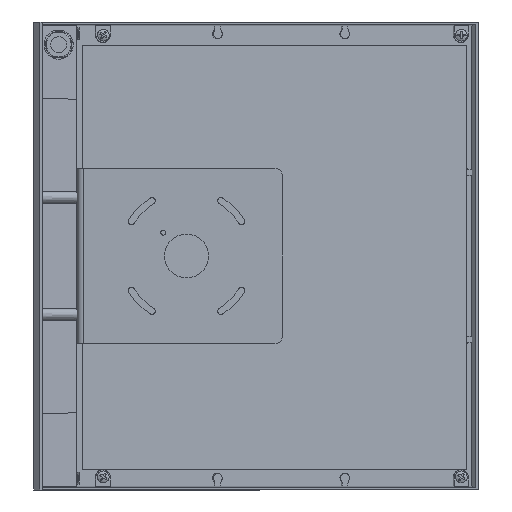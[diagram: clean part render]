
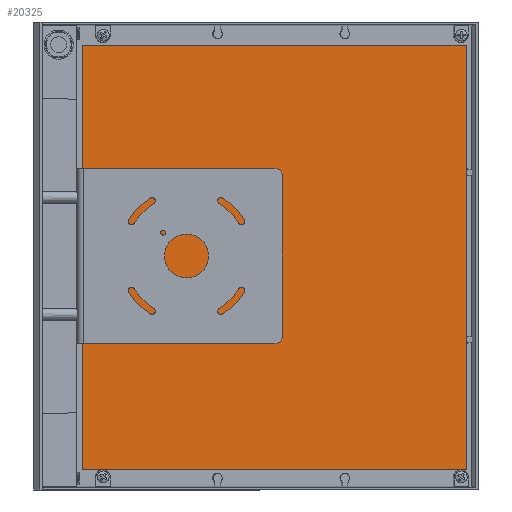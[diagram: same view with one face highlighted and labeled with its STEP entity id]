
A CAD part, left-side view. The second image highlights one B-rep face of the part: STEP entity #20325.
In plain terms, the highlighted planar face has unit normal (-0.999, -0.038, 0) as drawn and (0, -1, 0) by its records, which use the part's own axes.
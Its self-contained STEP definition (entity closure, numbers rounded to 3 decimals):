
#3558 = VERTEX_POINT ( 'NONE', #20234 ) ;
#7735 = LINE ( 'NONE', #22113, #37210 ) ;
#8285 = DIRECTION ( 'NONE',  ( 0., 1., 0. ) ) ;
#9174 = EDGE_LOOP ( 'NONE', ( #26311, #14232, #24971, #21542 ) ) ;
#10158 = DIRECTION ( 'NONE',  ( 0., 0., -1. ) ) ;
#10750 = CARTESIAN_POINT ( 'NONE',  ( -145., 0., -131.5 ) ) ;
#11311 = AXIS2_PLACEMENT_3D ( 'NONE', #16796, #8285, #19075 ) ;
#12753 = CARTESIAN_POINT ( 'NONE',  ( 145., 0., -131.5 ) ) ;
#13073 = VECTOR ( 'NONE', #29663, 1000. ) ;
#13156 = EDGE_CURVE ( 'NONE', #26942, #31463, #30765, .T. ) ;
#14232 = ORIENTED_EDGE ( 'NONE', *, *, #13156, .F. ) ;
#16796 = CARTESIAN_POINT ( 'NONE',  ( 0., 0., 0. ) ) ;
#19075 = DIRECTION ( 'NONE',  ( 0., 0., 1. ) ) ;
#20234 = CARTESIAN_POINT ( 'NONE',  ( -145., 0., 131.5 ) ) ;
#20325 = ADVANCED_FACE ( 'NONE', ( #25490 ), #31129, .F. ) ;
#21505 = EDGE_CURVE ( 'NONE', #31463, #3558, #7735, .T. ) ;
#21542 = ORIENTED_EDGE ( 'NONE', *, *, #33451, .F. ) ;
#21758 = EDGE_CURVE ( 'NONE', #36669, #26942, #24514, .T. ) ;
#22113 = CARTESIAN_POINT ( 'NONE',  ( -145., 0., -131.5 ) ) ;
#24514 = LINE ( 'NONE', #36013, #36803 ) ;
#24930 = DIRECTION ( 'NONE',  ( 0., 0., 1. ) ) ;
#24971 = ORIENTED_EDGE ( 'NONE', *, *, #21758, .F. ) ;
#25490 = FACE_OUTER_BOUND ( 'NONE', #9174, .T. ) ;
#26311 = ORIENTED_EDGE ( 'NONE', *, *, #21505, .F. ) ;
#26843 = LINE ( 'NONE', #34933, #13073 ) ;
#26942 = VERTEX_POINT ( 'NONE', #12753 ) ;
#27573 = CARTESIAN_POINT ( 'NONE',  ( 145., 0., 131.5 ) ) ;
#28502 = DIRECTION ( 'NONE',  ( -1., 0., 0. ) ) ;
#28914 = CARTESIAN_POINT ( 'NONE',  ( -145., 0., -131.5 ) ) ;
#29663 = DIRECTION ( 'NONE',  ( 1., 0., 0. ) ) ;
#30765 = LINE ( 'NONE', #10750, #34840 ) ;
#31129 = PLANE ( 'NONE',  #11311 ) ;
#31463 = VERTEX_POINT ( 'NONE', #28914 ) ;
#33451 = EDGE_CURVE ( 'NONE', #3558, #36669, #26843, .T. ) ;
#34840 = VECTOR ( 'NONE', #28502, 1000. ) ;
#34933 = CARTESIAN_POINT ( 'NONE',  ( -145., 0., 131.5 ) ) ;
#36013 = CARTESIAN_POINT ( 'NONE',  ( 145., 0., -131.5 ) ) ;
#36669 = VERTEX_POINT ( 'NONE', #27573 ) ;
#36803 = VECTOR ( 'NONE', #10158, 1000. ) ;
#37210 = VECTOR ( 'NONE', #24930, 1000. ) ;
